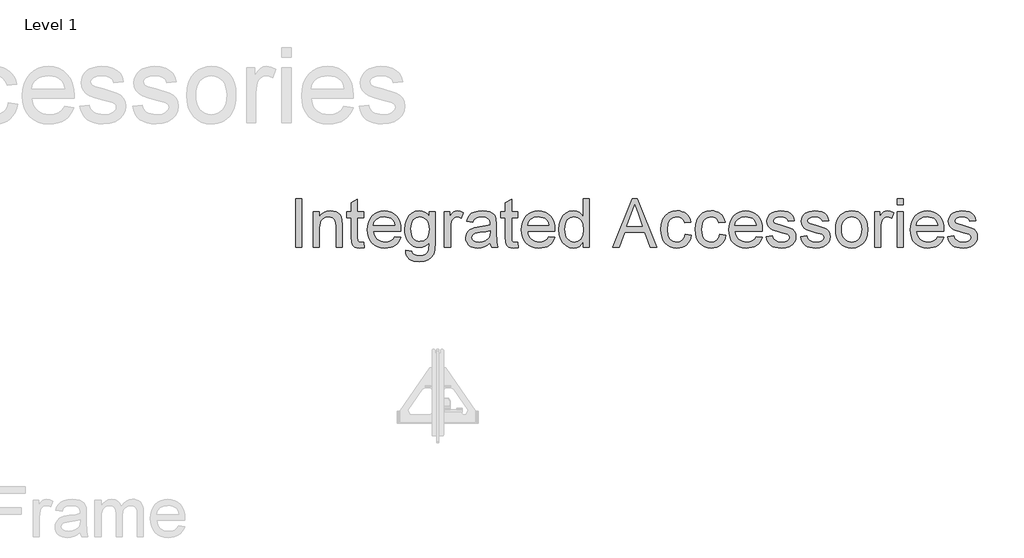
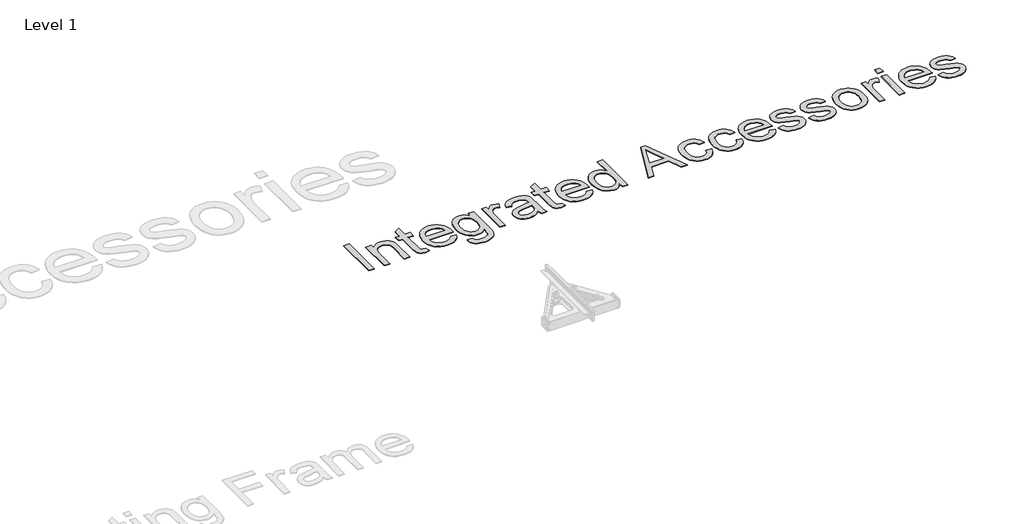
# One storey, part 37 of 52: 1 proxy.
"""IFC4 building model written with IfcOpenShell, lengths in millimetres."""

import ifcopenshell
import ifcopenshell.guid

model = None  # the IFC model being written
_history = None  # IfcOwnerHistory: only IFC2X3 demands one
_inside = {}  # id of a spatial element -> (the spatial element, [elements in it])
_under = {}  # id of a project, library or spatial element -> (it, [spatial elements below it])
_declared = {}  # id of a project -> (the project, [libraries it declares])
_typed = {}  # id of a type object -> (the type object, [elements of that type])
_made_of = {}  # id of a material, layer set ... -> (it, [elements and type objects made of it])


def new_model(schema):
    """Start an empty IFC model of exactly this schema.

    Asked for "IFC4X3", IfcOpenShell would pick the latest addendum, in which some entities
    have other attributes; the version numbers below select the first issue.
    IFC2X3 requires an IfcOwnerHistory on every rooted entity: one is made here for all.
    """
    global model, _history
    if schema == "IFC4X3":
        model = ifcopenshell.file(schema_version=(4, 3, 0, 0))
    else:
        model = ifcopenshell.file(schema=schema)
    _inside.clear()
    _under.clear()
    _declared.clear()
    _typed.clear()
    _made_of.clear()
    _history = None
    if model.schema == "IFC2X3":
        org = make("IfcOrganization", Name="unknown")
        user = make(
            "IfcPersonAndOrganization",
            ThePerson=make("IfcPerson", FamilyName="unknown"),
            TheOrganization=org,
        )
        app = make(
            "IfcApplication",
            ApplicationDeveloper=org,
            Version="unknown",
            ApplicationFullName="unknown",
            ApplicationIdentifier="unknown",
        )
        _history = make(
            "IfcOwnerHistory",
            OwningUser=user,
            OwningApplication=app,
            ChangeAction="ADDED",
            CreationDate=0,
        )
    return model


def make(cls, **values):
    """One entity of the class cls with the attributes given. An attribute that is None is left unset."""
    return model.create_entity(
        cls, **{name: value for name, value in values.items() if value is not None}
    )


def rooted(cls, **values):
    """An entity with a GlobalId (a new one), such as an element, a storey or a relation."""
    return make(cls, GlobalId=ifcopenshell.guid.new(), OwnerHistory=_history, **values)


def si_unit(unit_type, name, prefix=None):
    """IfcSIUnit, for example si_unit("LENGTHUNIT", "METRE", prefix="MILLI")."""
    return make("IfcSIUnit", UnitType=unit_type, Prefix=prefix, Name=name)


def assignment(units):
    """IfcUnitAssignment: the units of a project."""
    return None if units is None else make("IfcUnitAssignment", Units=units)


def point(xyz):
    """IfcCartesianPoint."""
    return None if xyz is None else make("IfcCartesianPoint", Coordinates=xyz)


def direction(xyz):
    """IfcDirection."""
    return None if xyz is None else make("IfcDirection", DirectionRatios=xyz)


def frame(location, z_axis=None, x_axis=None):
    """IfcAxis2Placement3D, a coordinate frame: its origin and axes. An axis left out is left unset."""
    return make(
        "IfcAxis2Placement3D",
        Location=point(location),
        Axis=direction(z_axis),
        RefDirection=direction(x_axis),
    )


def origin():
    """The frame at (0, 0, 0) with its axes left unset."""
    return frame((0.0, 0.0, 0.0))


def origin_with_axes():
    """The frame at (0, 0, 0) with the z axis (0, 0, 1) and the x axis (1, 0, 0) written out."""
    return frame((0.0, 0.0, 0.0), z_axis=(0.0, 0.0, 1.0), x_axis=(1.0, 0.0, 0.0))


def place(relative_to, where):
    """IfcLocalPlacement: puts the frame where relative to a parent placement (None: the world)."""
    return make(
        "IfcLocalPlacement", PlacementRelTo=relative_to, RelativePlacement=where
    )


def context(
    kind, dimensions, precision=None, world=None, true_north=None, identifier=None
):
    """IfcGeometricRepresentationContext, for example the 3D "Model" context."""
    return make(
        "IfcGeometricRepresentationContext",
        ContextIdentifier=identifier,
        ContextType=kind,
        CoordinateSpaceDimension=dimensions,
        Precision=precision,
        WorldCoordinateSystem=world,
        TrueNorth=true_north,
    )


def project(units=None, contexts=None):
    """IfcProject with its units and contexts."""
    return rooted(
        "IfcProject",
        Name="project",
        RepresentationContexts=contexts,
        UnitsInContext=assignment(units),
    )


def spatial(cls, under=None, at=None, **own):
    """A site, building, storey or space (cls), placed at a placement, below another one or the project."""
    s = rooted(cls, ObjectPlacement=at, **own)
    if under is not None:
        _under.setdefault(under.id(), (under, []))[1].append(s)
    return s


def polyline(points):
    """IfcPolyline through the points."""
    return make("IfcPolyline", Points=[point(p) for p in points])


def outline(outer, holes=None, kind="AREA"):
    """IfcArbitraryClosedProfileDef: a profile drawn as a closed curve; with holes, ...WithVoids."""
    if holes is None:
        return make("IfcArbitraryClosedProfileDef", ProfileType=kind, OuterCurve=outer)
    return make(
        "IfcArbitraryProfileDefWithVoids",
        ProfileType=kind,
        OuterCurve=outer,
        InnerCurves=holes,
    )


def extrude(swept, where, along, depth):
    """IfcExtrudedAreaSolid: the profile swept, set in the frame where, extruded along a direction by depth."""
    return make(
        "IfcExtrudedAreaSolid",
        SweptArea=swept,
        Position=where,
        ExtrudedDirection=direction(along),
        Depth=depth,
    )


def shape(context_of_items, identifier, shape_type, items):
    """IfcShapeRepresentation: the items that make up one representation, for example the "Body"."""
    return make(
        "IfcShapeRepresentation",
        ContextOfItems=context_of_items,
        RepresentationIdentifier=identifier,
        RepresentationType=shape_type,
        Items=items,
    )


def made_of(thing, what):
    """Note that an element or type object is made of a material, layer set ...; save() writes the relation."""
    if what is not None:
        _made_of.setdefault(what.id(), (what, []))[1].append(thing)
    return thing


def element(
    cls,
    number,
    at=None,
    inside=None,
    cuts=None,
    type_object=None,
    material=None,
    context=None,
    identifier="Body",
    shape_type=None,
    held_by="IfcProductDefinitionShape",
    body=None,
    shapes=None,
    **own,
):
    """One element of the class cls, such as IfcWall. Its Tag is "e" and its number.

    at: its placement. inside: the storey or other place that contains it. cuts: it is an
    opening in that element (IfcRelVoidsElement). A single representation is given by context,
    identifier, shape_type and body (its items); several are given by shapes. held_by: the class
    of the entity that holds the representations. save() writes the other relations.
    """
    e = rooted(cls, Tag="e%d" % number, ObjectPlacement=at, **own)
    if body is not None:
        shapes = [shape(context, identifier, shape_type, body)]
    if shapes is not None:
        e.Representation = make(held_by, Representations=shapes)
    if inside is not None:
        _inside.setdefault(inside.id(), (inside, []))[1].append(e)
    if cuts is not None:
        rooted(
            "IfcRelVoidsElement", RelatingBuildingElement=cuts, RelatedOpeningElement=e
        )
    if type_object is not None:
        _typed.setdefault(type_object.id(), (type_object, []))[1].append(e)
    return made_of(e, material)


def aggregate(whole, parts):
    """IfcRelAggregates: a whole, such as a stair, and the parts it consists of."""
    return rooted("IfcRelAggregates", RelatingObject=whole, RelatedObjects=parts)


def save(model, path):
    """Write the relations noted so far, then the file.

    IfcRelAggregates (storeys below a building ...), IfcRelContainedInSpatialStructure (elements
    in a storey), IfcRelDefinesByType, IfcRelAssociatesMaterial and IfcRelDeclares: one each for
    every whole, place, type object, material and project.
    """
    for whole, parts in _under.values():
        aggregate(whole, parts)
    for where, things in _inside.values():
        rooted(
            "IfcRelContainedInSpatialStructure",
            RelatedElements=things,
            RelatingStructure=where,
        )
    for kind, things in _typed.values():
        rooted("IfcRelDefinesByType", RelatedObjects=things, RelatingType=kind)
    for what, things in _made_of.values():
        rooted("IfcRelAssociatesMaterial", RelatedObjects=things, RelatingMaterial=what)
    for by, libraries in _declared.values():
        rooted("IfcRelDeclares", RelatingContext=by, RelatedDefinitions=libraries)
    model.write(path)


model = new_model("IFC4")

# Units and contexts
model_context = context("Model", 3, world=origin())
ifc_project = project(units=[si_unit("LENGTHUNIT", "METRE", prefix="MILLI")], contexts=[model_context])

# Site, building, storey
site = spatial("IfcSite", under=ifc_project)
building = spatial("IfcBuilding", under=site)
storey = spatial("IfcBuildingStorey", under=building, Name="Level 1", Elevation=0.0)

# Proxy
placement = place(None, origin())
element("IfcBuildingElementProxy", 1, Name="400mm Arial", ObjectType="400mm Arial", at=placement, inside=storey, context=model_context, shape_type="SweptSolid", body=[
    extrude(outline(polyline([(15562.2235155, -61267.5695164), (15562.2235155, -60875.8119407), (15611.1932125, -60875.8119407), (15611.1932125, -61267.5695164), (15562.2235155, -61267.5695164)])), origin_with_axes(), (0.0, 0.0, 1.0), 5.0),
    extrude(outline(polyline([(15703.0113943, -61267.5695164), (15703.0113943, -60979.8725467), (15751.9810912, -60979.8725467), (15751.9810912, -61020.0430013), (15768.993757, -60999.7903971), (15789.4256935, -60985.3242513), (15813.2769009, -60976.6445638), (15840.5473791, -60973.7513346), (15864.6855183, -60976.0826556), (15886.7912238, -60983.0766187), (15905.2265931, -60993.8604729), (15918.3537238, -61007.5614672), (15927.2605657, -61024.1437352), (15933.0350685, -61043.5714104), (15935.6174549, -61090.9151604), (15935.6174549, -61267.5695164), (15886.6477579, -61267.5695164), (15886.6477579, -61097.5145922), (15885.2370098, -61072.1928592), (15881.0047655, -61054.1878876), (15873.1978289, -61041.2879113), (15861.0630041, -61031.2811642), (15845.5089085, -61024.8610647), (15827.4441594, -61022.7210316), (15798.7629331, -61027.5271395), (15774.3139511, -61041.9454634), (15764.5433249, -61053.7156457), (15757.5643062, -61069.8017607), (15753.376895, -61090.2038086), (15751.9810912, -61114.9217892), (15751.9810912, -61267.5695164), (15703.0113943, -61267.5695164)])), origin_with_axes(), (0.0, 0.0, 1.0), 5.0),
    extrude(outline(polyline([(16107.0113943, -61226.7295543), (16113.1326064, -61269.0041755), (16076.5009776, -61273.6907285), (16052.9964795, -61271.6582948), (16035.4697276, -61265.5609937), (16023.0838375, -61256.1639767), (16015.0019246, -61244.2323952), (16010.5544814, -61223.7406812), (16009.0720003, -61188.6632664), (16009.0720003, -61028.8422437), (15972.3447276, -61028.8422437), (15972.3447276, -60979.8725467), (16009.0720003, -60979.8725467), (16009.0720003, -60909.956827), (16058.0416973, -60881.1680013), (16058.0416973, -60979.8725467), (16107.0113943, -60979.8725467), (16107.0113943, -61028.8422437), (16058.0416973, -61028.8422437), (16058.0416973, -61187.2286073), (16060.6240837, -61212.4786073), (16068.9929284, -61221.4213157), (16085.6827958, -61224.7210316), (16107.0113943, -61226.7295543)])), origin_with_axes(), (0.0, 0.0, 1.0), 5.0),
    extrude(outline(polyline([(16357.4072276, -61181.8725467), (16405.4204852, -61187.9937589), (16398.0588907, -61207.2241684), (16388.1208876, -61224.1710789), (16375.6064759, -61238.8344904), (16360.5156556, -61251.2144028), (16343.0038481, -61261.0477953), (16323.2264748, -61268.0716471), (16276.8750306, -61273.6907285), (16246.4901466, -61271.2667525), (16219.416934, -61263.9948242), (16195.6553928, -61251.8749437), (16175.2055231, -61234.9071111), (16158.7607432, -61213.5635683), (16147.0144719, -61188.3165571), (16139.9667091, -61159.1660777), (16137.6174549, -61126.1121301), (16139.9906201, -61091.937355), (16147.1101159, -61061.8154918), (16158.9759421, -61035.7465406), (16175.5880988, -61013.7305013), (16195.9841689, -60996.2396159), (16219.2017352, -60983.7461263), (16245.2407977, -60976.2500325), (16274.1013564, -60973.7513346), (16302.0323756, -60976.2440548), (16327.2913422, -60983.7222153), (16349.8782562, -60996.1858161), (16369.7931178, -61013.6348573), (16386.0495986, -61035.6030747), (16397.6613706, -61061.6242039), (16404.6284338, -61091.6982451), (16406.9507882, -61125.8251982), (16406.6638564, -61139.0240619), (16186.5871518, -61139.0240619), (16189.4235924, -61158.5653142), (16195.063596, -61175.6796017), (16203.5071625, -61190.3669241), (16214.754292, -61202.6272816), (16243.1724975, -61219.1975941), (16277.83147, -61224.7210316), (16303.8944435, -61222.1625562), (16325.8447276, -61214.4871301), (16343.6823223, -61201.2165335), (16357.4072276, -61181.8725467)]), holes=[polyline([(16186.5871518, -61090.0543649), (16357.9810912, -61090.0543649), (16351.3577484, -61064.1826793), (16338.3740837, -61045.675577), (16325.0197986, -61035.6329634), (16309.8243678, -61028.4596679), (16273.9100685, -61022.7210316), (16240.9009539, -61027.2999852), (16213.6065647, -61041.036846), (16194.6331982, -61062.4491329), (16186.5871518, -61090.0543649)])]), origin_with_axes(), (0.0, 0.0, 1.0), 5.0),
    extrude(outline(polyline([(16443.6780609, -61292.0543649), (16492.6477579, -61298.175577), (16498.0516405, -61313.4786073), (16508.5246518, -61323.9994407), (16529.1120098, -61332.1769975), (16556.0596897, -61334.9028498), (16584.8006935, -61331.8183327), (16606.177114, -61322.5647816), (16621.0019246, -61307.739971), (16630.0880988, -61287.9416755), (16633.4356367, -61230.8422437), (16617.1403005, -61246.9104255), (16598.9559965, -61258.3876982), (16578.8827248, -61265.2740619), (16556.9204852, -61267.5695164), (16530.0714381, -61264.8974639), (16506.4324407, -61256.8813062), (16486.003493, -61243.5210434), (16468.784595, -61224.8166755), (16455.1224561, -61202.3762162), (16445.3637854, -61177.8076793), (16439.508583, -61151.1110647), (16437.5568488, -61122.2863725), (16441.0598081, -61082.749559), (16451.5686859, -61046.3929066), (16468.7128621, -61015.5836026), (16492.1217162, -60992.6888346), (16520.9942304, -60978.4857096), (16554.5293867, -60973.7513346), (16577.4301324, -60976.4293649), (16598.214756, -60984.4634558), (16616.8832574, -60997.8536073), (16633.4356367, -61016.5998195), (16633.4356367, -60979.8725467), (16682.4053337, -60979.8725467), (16682.4053337, -61228.2598573), (16679.0577958, -61285.6103545), (16669.0151821, -61323.3777551), (16651.7155846, -61348.4245117), (16626.597095, -61367.613077), (16594.2096661, -61379.8076793), (16555.1032503, -61383.8725467), (16509.5408687, -61378.1458659), (16490.3911587, -61370.9875148), (16473.6624359, -61360.9658232), (16460.1497406, -61348.0688358), (16450.648113, -61332.2845969), (16445.1575531, -61313.6131066), (16443.6780609, -61292.0543649)]), holes=[polyline([(16486.5265458, -61118.9388346), (16491.751096, -61163.8556196), (16498.2817837, -61181.0506066), (16507.4247465, -61194.7366566), (16518.5403656, -61205.1767903), (16530.9890221, -61212.6340287), (16544.770716, -61217.1083718), (16559.8854473, -61218.5998195), (16588.5666736, -61212.6698952), (16612.2505041, -61194.8801225), (16621.5189996, -61181.3285718), (16628.1393536, -61164.3936168), (16633.4356367, -61120.3734937), (16627.9839321, -61077.9195401), (16621.1693015, -61061.1489731), (16611.6288185, -61047.349346), (16587.5982787, -61028.8781102), (16573.9152177, -61024.2603012), (16559.1202958, -61022.7210316), (16544.5734504, -61024.2363902), (16531.156399, -61028.7824662), (16507.7116784, -61046.9667702), (16498.4431829, -61060.5571762), (16491.8228289, -61077.0826556), (16486.5265458, -61118.9388346)])]), origin_with_axes(), (0.0, 0.0, 1.0), 5.0),
    extrude(outline(polyline([(16755.8598791, -61267.5695164), (16755.8598791, -60979.8725467), (16798.708364, -60979.8725467), (16798.708364, -61022.4340998), (16814.5374359, -60997.7579634), (16829.1231367, -60983.2200846), (16843.7566594, -60976.1185221), (16859.7291973, -60973.7513346), (16884.1184018, -60977.5292702), (16908.8901821, -60988.863077), (16892.5350685, -61032.7636452), (16875.3191594, -61025.231685), (16858.1032503, -61022.7210316), (16843.4816831, -61025.136041), (16830.4143299, -61032.3810695), (16819.8576301, -61043.9061642), (16812.7680231, -61059.1613725), (16806.8141878, -61086.5155392), (16804.8295761, -61116.3564482), (16804.8295761, -61267.5695164), (16755.8598791, -61267.5695164)])), origin_with_axes(), (0.0, 0.0, 1.0), 5.0),
    extrude(outline(polyline([(17123.1326064, -61230.8422437), (17099.7357077, -61250.90356), (17075.6453905, -61264.0306907), (17050.311702, -61271.2757191), (17023.1846897, -61273.6907285), (17001.3808604, -61272.2381362), (16982.2610392, -61267.8803592), (16965.8252259, -61260.6173976), (16952.0734208, -61250.4492513), (16941.2148448, -61238.0215169), (16933.4587191, -61223.979791), (16928.8050437, -61208.3240737), (16927.2538185, -61191.0543649), (16929.597095, -61170.7539388), (16936.6269246, -61152.3185695), (16947.4705562, -61136.5373195), (16961.255239, -61124.1992513), (16995.5435912, -61108.1310695), (17037.9138564, -61100.7664861), (17087.9834587, -61093.019327), (17122.8456746, -61083.9331528), (17123.1326064, -61073.0297437), (17119.7611575, -61051.1751035), (17109.6468109, -61036.8763346), (17087.0270193, -61026.2598573), (17055.5123412, -61022.7210316), (17026.3409397, -61025.0762636), (17005.9687806, -61032.1419596), (16992.0764984, -61045.2093128), (16982.3447276, -61065.5695164), (16933.3750306, -61059.4483043), (16941.8753857, -61032.6680013), (16954.5601632, -61011.6263346), (16972.6129568, -60995.5342418), (16997.2173602, -60983.6026604), (17027.3093346, -60976.214166), (17061.8248412, -60973.7513346), (17094.9295998, -60975.9272342), (17121.1719056, -60982.4549331), (17140.9582456, -60992.2703924), (17154.6951064, -61004.3095732), (17163.8051916, -61019.1941613), (17169.7112049, -61037.5458422), (17172.1023034, -61080.394327), (17172.1023034, -61141.3195164), (17174.5890458, -61226.3948005), (17184.3447276, -61267.5695164), (17135.3750306, -61267.5695164), (17127.5322276, -61250.5448952), (17123.1326064, -61230.8422437)]), holes=[polyline([(17123.1326064, -61132.9028498), (17090.2310912, -61141.0564956), (17044.1307125, -61147.9189482), (17001.9995571, -61155.8573952), (16991.0363706, -61161.2851888), (16982.9185912, -61168.769327), (16977.8972844, -61177.7359464), (16976.2235155, -61187.6111831), (16979.8699407, -61202.1729729), (16990.8092162, -61214.1045543), (17008.8022323, -61222.0669123), (17033.6098791, -61224.7210316), (17059.9119625, -61221.7919359), (17083.1534397, -61213.004649), (17101.9952958, -61200.0568507), (17115.0985155, -61184.646221), (17120.9088848, -61168.769327), (17122.8456746, -61146.771221), (17123.1326064, -61132.9028498)])]), origin_with_axes(), (0.0, 0.0, 1.0), 5.0),
    extrude(outline(polyline([(17343.4962428, -61226.7295543), (17349.6174549, -61269.0041755), (17312.9858261, -61273.6907285), (17289.481328, -61271.6582948), (17271.9545761, -61265.5609937), (17259.5686859, -61256.1639767), (17251.4867731, -61244.2323952), (17247.0393299, -61223.7406812), (17245.5568488, -61188.6632664), (17245.5568488, -61028.8422437), (17208.8295761, -61028.8422437), (17208.8295761, -60979.8725467), (17245.5568488, -60979.8725467), (17245.5568488, -60909.956827), (17294.5265458, -60881.1680013), (17294.5265458, -60979.8725467), (17343.4962428, -60979.8725467), (17343.4962428, -61028.8422437), (17294.5265458, -61028.8422437), (17294.5265458, -61187.2286073), (17297.1089321, -61212.4786073), (17305.4777768, -61221.4213157), (17322.1676443, -61224.7210316), (17343.4962428, -61226.7295543)])), origin_with_axes(), (0.0, 0.0, 1.0), 5.0),
    extrude(outline(polyline([(17593.8920761, -61181.8725467), (17641.9053337, -61187.9937589), (17634.5437392, -61207.2241684), (17624.6057361, -61224.1710789), (17612.0913244, -61238.8344904), (17597.0005041, -61251.2144028), (17579.4886966, -61261.0477953), (17559.7113232, -61268.0716471), (17513.3598791, -61273.6907285), (17482.9749951, -61271.2667525), (17455.9017825, -61263.9948242), (17432.1402413, -61251.8749437), (17411.6903715, -61234.9071111), (17395.2455917, -61213.5635683), (17383.4993204, -61188.3165571), (17376.4515576, -61159.1660777), (17374.1023034, -61126.1121301), (17376.4754686, -61091.937355), (17383.5949643, -61061.8154918), (17395.4607906, -61035.7465406), (17412.0729473, -61013.7305013), (17432.4690174, -60996.2396159), (17455.6865837, -60983.7461263), (17481.7256462, -60976.2500325), (17510.5862049, -60973.7513346), (17538.5172241, -60976.2440548), (17563.7761907, -60983.7222153), (17586.3631047, -60996.1858161), (17606.2779662, -61013.6348573), (17622.5344471, -61035.6030747), (17634.1462191, -61061.6242039), (17641.1132823, -61091.6982451), (17643.4356367, -61125.8251982), (17643.1487049, -61139.0240619), (17423.0720003, -61139.0240619), (17425.9084409, -61158.5653142), (17431.5484445, -61175.6796017), (17439.992011, -61190.3669241), (17451.2391405, -61202.6272816), (17479.657346, -61219.1975941), (17514.3163185, -61224.7210316), (17540.379292, -61222.1625562), (17562.3295761, -61214.4871301), (17580.1671708, -61201.2165335), (17593.8920761, -61181.8725467)]), holes=[polyline([(17423.0720003, -61090.0543649), (17594.4659397, -61090.0543649), (17587.8425969, -61064.1826793), (17574.8589321, -61045.675577), (17561.5046471, -61035.6329634), (17546.3092162, -61028.4596679), (17510.394917, -61022.7210316), (17477.3858024, -61027.2999852), (17450.0914132, -61041.036846), (17431.1180467, -61062.4491329), (17423.0720003, -61090.0543649)])]), origin_with_axes(), (0.0, 0.0, 1.0), 5.0),
    extrude(outline(polyline([(17869.9204852, -61267.5695164), (17869.9204852, -61221.3734937), (17855.2690292, -61244.2622839), (17837.5211007, -61260.6114198), (17816.6766997, -61270.4209014), (17792.7358261, -61273.6907285), (17761.0776821, -61268.9563535), (17732.0975685, -61254.7532285), (17707.5648981, -61232.0736594), (17689.2490837, -61201.909952), (17677.8435439, -61165.4815666), (17674.0416973, -61124.0079634), (17677.5446566, -61083.0484464), (17688.0535344, -61046.0581528), (17705.5563753, -61015.1412494), (17730.0412238, -60992.4019028), (17759.6549786, -60978.4139767), (17792.5445382, -60973.7513346), (17816.503345, -60977.086917), (17837.6884776, -60987.0936642), (17855.6456272, -61002.4325609), (17869.9204852, -61021.7645922), (17869.9204852, -60875.8119407), (17918.8901821, -60875.8119407), (17918.8901821, -61267.5695164), (17869.9204852, -61267.5695164)]), holes=[polyline([(17723.0113943, -61123.8166755), (17728.5348318, -61168.111775), (17735.4391286, -61185.4621833), (17745.1051443, -61199.6144975), (17769.183506, -61218.4443981), (17782.7111457, -61223.1518732), (17797.2310912, -61224.7210316), (17825.266721, -61218.7313299), (17848.7353526, -61200.7622248), (17858.0038481, -61187.2017075), (17864.624202, -61170.4789625), (17869.9204852, -61127.5467892), (17864.5285581, -61080.6095259), (17857.7886492, -61062.5387991), (17848.3527768, -61048.0666755), (17836.9442482, -61036.9779563), (17824.2863706, -61029.0574426), (17810.379144, -61024.3051343), (17795.2225685, -61022.7210316), (17780.4156911, -61024.242368), (17766.8880515, -61028.8063772), (17754.6396495, -61036.4130593), (17743.6704852, -61047.0624142), (17734.6321329, -61060.987574), (17728.176167, -61078.4216708), (17723.0113943, -61123.8166755)])]), origin_with_axes(), (0.0, 0.0, 1.0), 5.0),
    extrude(outline(polyline([(18105.8740837, -61267.5695164), (18262.2519246, -60875.8119407), (18303.9526821, -60875.8119407), (18460.3305231, -61267.5695164), (18408.5871518, -61267.5695164), (18363.7301443, -61145.145274), (18202.3788185, -61145.145274), (18157.6174549, -61267.5695164), (18105.8740837, -61267.5695164)]), holes=[polyline([(18220.3598791, -61096.175577), (18345.8447276, -61096.175577), (18310.552114, -60999.8621301), (18283.1023034, -60924.7816376), (18258.7130988, -60991.4454634), (18220.3598791, -61096.175577)])]), origin_with_axes(), (0.0, 0.0, 1.0), 5.0),
    extrude(outline(polyline([(18690.1629094, -61163.5089104), (18739.1326064, -61169.6301225), (18733.8064345, -61192.7371005), (18725.479434, -61213.1839814), (18714.151605, -61230.9707652), (18699.8229473, -61246.097452), (18683.0972134, -61258.1695105), (18664.5781556, -61266.7924094), (18644.265774, -61271.9661488), (18622.1600685, -61273.6907285), (18594.6953135, -61271.2846857), (18570.069988, -61264.0665571), (18548.284092, -61252.0363429), (18529.3376253, -61235.1940429), (18514.0017174, -61213.8564778), (18503.0474975, -61188.3404681), (18496.4749655, -61158.6460138), (18494.2841215, -61124.7731149), (18498.0261907, -61081.195345), (18509.2523981, -61043.4279445), (18528.1420761, -61012.9294833), (18554.8745571, -60991.1585316), (18586.8554994, -60978.1031339), (18621.4905609, -60973.7513346), (18643.2166795, -60975.2457712), (18662.8685202, -60979.7290808), (18680.446083, -60987.2012636), (18695.9493678, -60997.6623195), (18709.1153538, -61010.8731386), (18719.6810202, -61026.5946111), (18727.646367, -61044.8267371), (18733.0113943, -61065.5695164), (18684.0416973, -61071.6907285), (18675.1587664, -61050.3262636), (18661.3262617, -61035.0112778), (18643.3093346, -61025.7935931), (18621.8731367, -61022.7210316), (18605.2340801, -61024.2334014), (18590.2269482, -61028.7705107), (18576.8517411, -61036.3323597), (18565.1084587, -61046.9189482), (18555.5470536, -61060.775364), (18548.7174786, -61078.1466945), (18543.2538185, -61123.4340998), (18548.5979236, -61169.3312352), (18555.278055, -61186.8191317), (18564.630239, -61200.6665808), (18576.1403893, -61211.190403), (18589.2944198, -61218.7074189), (18604.0923306, -61223.2176284), (18620.5341215, -61224.7210316), (18645.891721, -61220.967007), (18666.6823223, -61209.7049331), (18681.8060202, -61190.6478782), (18690.1629094, -61163.5089104)])), origin_with_axes(), (0.0, 0.0, 1.0), 5.0),
    extrude(outline(polyline([(18965.6174549, -61163.5089104), (19014.5871518, -61169.6301225), (19009.26098, -61192.7371005), (19000.9339795, -61213.1839814), (18989.6061504, -61230.9707652), (18975.2774928, -61246.097452), (18958.5517589, -61258.1695105), (18940.0327011, -61266.7924094), (18919.7203195, -61271.9661488), (18897.614614, -61273.6907285), (18870.149859, -61271.2846857), (18845.5245335, -61264.0665571), (18823.7386374, -61252.0363429), (18804.7921708, -61235.1940429), (18789.4562629, -61213.8564778), (18778.5020429, -61188.3404681), (18771.929511, -61158.6460138), (18769.738667, -61124.7731149), (18773.4807361, -61081.195345), (18784.7069435, -61043.4279445), (18803.5966215, -61012.9294833), (18830.3291026, -60991.1585316), (18862.3100448, -60978.1031339), (18896.9451064, -60973.7513346), (18918.671225, -60975.2457712), (18938.3230657, -60979.7290808), (18955.9006284, -60987.2012636), (18971.4039132, -60997.6623195), (18984.5698992, -61010.8731386), (18995.1355657, -61026.5946111), (19003.1009125, -61044.8267371), (19008.4659397, -61065.5695164), (18959.4962428, -61071.6907285), (18950.6133119, -61050.3262636), (18936.7808071, -61035.0112778), (18918.7638801, -61025.7935931), (18897.3276821, -61022.7210316), (18880.6886256, -61024.2334014), (18865.6814937, -61028.7705107), (18852.3062866, -61036.3323597), (18840.5630041, -61046.9189482), (18831.0015991, -61060.775364), (18824.172024, -61078.1466945), (18818.708364, -61123.4340998), (18824.0524691, -61169.3312352), (18830.7326005, -61186.8191317), (18840.0847844, -61200.6665808), (18851.5949348, -61211.190403), (18864.7489653, -61218.7074189), (18879.546876, -61223.2176284), (18895.988667, -61224.7210316), (18921.3462664, -61220.967007), (18942.1368678, -61209.7049331), (18957.2605657, -61190.6478782), (18965.6174549, -61163.5089104)])), origin_with_axes(), (0.0, 0.0, 1.0), 5.0),
    extrude(outline(polyline([(19258.8617731, -61181.8725467), (19306.8750306, -61187.9937589), (19299.5134362, -61207.2241684), (19289.5754331, -61224.1710789), (19277.0610214, -61238.8344904), (19261.9702011, -61251.2144028), (19244.4583936, -61261.0477953), (19224.6810202, -61268.0716471), (19178.3295761, -61273.6907285), (19147.9446921, -61271.2667525), (19120.8714795, -61263.9948242), (19097.1099383, -61251.8749437), (19076.6600685, -61234.9071111), (19060.2152887, -61213.5635683), (19048.4690174, -61188.3165571), (19041.4212546, -61159.1660777), (19039.0720003, -61126.1121301), (19041.4451656, -61091.937355), (19048.5646613, -61061.8154918), (19060.4304875, -61035.7465406), (19077.0426443, -61013.7305013), (19097.4387143, -60996.2396159), (19120.6562806, -60983.7461263), (19146.6953431, -60976.2500325), (19175.5559018, -60973.7513346), (19203.486921, -60976.2440548), (19228.7458876, -60983.7222153), (19251.3328017, -60996.1858161), (19271.2476632, -61013.6348573), (19287.504144, -61035.6030747), (19299.1159161, -61061.6242039), (19306.0829793, -61091.6982451), (19308.4053337, -61125.8251982), (19308.1184018, -61139.0240619), (19088.0416973, -61139.0240619), (19090.8781379, -61158.5653142), (19096.5181414, -61175.6796017), (19104.961708, -61190.3669241), (19116.2088375, -61202.6272816), (19144.6270429, -61219.1975941), (19179.2860155, -61224.7210316), (19205.348989, -61222.1625562), (19227.2992731, -61214.4871301), (19245.1368678, -61201.2165335), (19258.8617731, -61181.8725467)]), holes=[polyline([(19088.0416973, -61090.0543649), (19259.4356367, -61090.0543649), (19252.8122939, -61064.1826793), (19239.8286291, -61045.675577), (19226.4743441, -61035.6329634), (19211.2789132, -61028.4596679), (19175.364614, -61022.7210316), (19142.3554994, -61027.2999852), (19115.0611102, -61041.036846), (19096.0877437, -61062.4491329), (19088.0416973, -61090.0543649)])]), origin_with_axes(), (0.0, 0.0, 1.0), 5.0),
    extrude(outline(polyline([(19339.0113943, -61181.8725467), (19387.9810912, -61175.7513346), (19395.7043393, -61196.6973573), (19410.6487049, -61212.0960316), (19432.9098318, -61221.5647816), (19462.583364, -61224.7210316), (19491.8982314, -61221.8278024), (19512.5095003, -61213.1481149), (19524.7041026, -61200.5709369), (19528.76897, -61185.9852361), (19524.6801916, -61173.503702), (19512.4138564, -61163.9871301), (19462.0095003, -61150.0231149), (19388.2680231, -61126.0643081), (19369.6054994, -61114.0251272), (19356.0838375, -61098.0884558), (19347.8704142, -61079.2705107), (19345.1326064, -61058.5875089), (19347.332417, -61039.6141424), (19353.9318488, -61022.099346), (19364.3331272, -61006.7365382), (19377.9384776, -60994.2191376), (19409.0705799, -60979.7290808), (19451.2017352, -60973.7513346), (19483.075078, -60976.1543886), (19510.7879094, -60983.3635505), (19533.0729473, -60994.6734464), (19548.6629094, -61009.378702), (19558.9924549, -61028.5672674), (19565.4962428, -61053.3270922), (19516.5265458, -61059.4483043), (19510.3455562, -61044.0376746), (19498.1150875, -61032.4288914), (19479.7155846, -61025.1479965), (19455.0274928, -61022.7210316), (19426.9081746, -61025.0403971), (19408.1619625, -61031.9984937), (19397.6172181, -61042.0411073), (19394.1023034, -61053.614024), (19399.9365837, -61067.864971), (19418.2045761, -61078.6727361), (19460.3835534, -61089.0979255), (19532.2599738, -61112.1481149), (19551.2452958, -61123.1710789), (19565.6397087, -61138.2589104), (19574.7139274, -61157.4594312), (19577.738667, -61180.8204634), (19574.1878857, -61204.9705581), (19563.535542, -61227.6859937), (19546.1881225, -61247.1854018), (19522.552114, -61261.6874142), (19494.0023981, -61270.6899), (19461.9138564, -61273.6907285), (19435.5579733, -61272.244114), (19412.5376727, -61267.9042702), (19392.8529544, -61260.6711973), (19376.5038185, -61250.5448952), (19363.1495335, -61237.5731859), (19352.4493678, -61221.8038914), (19344.4033214, -61203.2370117), (19339.0113943, -61181.8725467)])), origin_with_axes(), (0.0, 0.0, 1.0), 5.0),
    extrude(outline(polyline([(19614.4659397, -61181.8725467), (19663.4356367, -61175.7513346), (19671.1588848, -61196.6973573), (19686.1032503, -61212.0960316), (19708.3643772, -61221.5647816), (19738.0379094, -61224.7210316), (19767.3527768, -61221.8278024), (19787.9640458, -61213.1481149), (19800.1586481, -61200.5709369), (19804.2235155, -61185.9852361), (19800.1347371, -61173.503702), (19787.8684018, -61163.9871301), (19737.4640458, -61150.0231149), (19663.7225685, -61126.0643081), (19645.0600448, -61114.0251272), (19631.5383829, -61098.0884558), (19623.3249596, -61079.2705107), (19620.5871518, -61058.5875089), (19622.7869625, -61039.6141424), (19629.3863943, -61022.099346), (19639.7876727, -61006.7365382), (19653.3930231, -60994.2191376), (19684.5251253, -60979.7290808), (19726.6562806, -60973.7513346), (19758.5296234, -60976.1543886), (19786.2424549, -60983.3635505), (19808.5274928, -60994.6734464), (19824.1174549, -61009.378702), (19834.4470003, -61028.5672674), (19840.9507882, -61053.3270922), (19791.9810912, -61059.4483043), (19785.8001017, -61044.0376746), (19773.5696329, -61032.4288914), (19755.1701301, -61025.1479965), (19730.4820382, -61022.7210316), (19702.36272, -61025.0403971), (19683.6165079, -61031.9984937), (19673.0717636, -61042.0411073), (19669.5568488, -61053.614024), (19675.3911291, -61067.864971), (19693.6591215, -61078.6727361), (19735.8380988, -61089.0979255), (19807.7145193, -61112.1481149), (19826.6998412, -61123.1710789), (19841.0942541, -61138.2589104), (19850.1684729, -61157.4594312), (19853.1932125, -61180.8204634), (19849.6424312, -61204.9705581), (19838.9900875, -61227.6859937), (19821.6426679, -61247.1854018), (19798.0066594, -61261.6874142), (19769.4569435, -61270.6899), (19737.3684018, -61273.6907285), (19711.0125188, -61272.244114), (19687.9922181, -61267.9042702), (19668.3074999, -61260.6711973), (19651.958364, -61250.5448952), (19638.6040789, -61237.5731859), (19627.9039132, -61221.8038914), (19619.8578668, -61203.2370117), (19614.4659397, -61181.8725467)])), origin_with_axes(), (0.0, 0.0, 1.0), 5.0),
    extrude(outline(polyline([(19896.0416973, -61123.7210316), (19898.6898389, -61086.4617394), (19906.6342636, -61054.3552645), (19919.8749714, -61027.4016069), (19938.4119625, -61005.6007664), (19957.0744861, -60991.66664), (19977.6737996, -60981.7136926), (20000.2099028, -60975.7419241), (20024.6827958, -60973.7513346), (20051.6992198, -60976.1753107), (20076.1272797, -60983.447239), (20097.9669755, -60995.5671194), (20117.2183071, -61012.534952), (20132.9308131, -61033.7768732), (20144.1540316, -61058.7190193), (20150.8879627, -61087.3613902), (20153.1326064, -61119.7039861), (20149.1633829, -61169.1758138), (20137.2557125, -61206.8356149), (20117.7563043, -61235.0386215), (20091.0118678, -61256.1400657), (20059.2461244, -61269.3030628), (20024.6827958, -61273.6907285), (19997.2718405, -61271.2757191), (19972.6166263, -61264.0306907), (19950.717153, -61251.9556433), (19931.5734208, -61235.050577), (19916.0282918, -61213.6024236), (19904.9246282, -61187.8981149), (19898.26243, -61157.9376509), (19896.0416973, -61123.7210316)]), holes=[polyline([(19945.0113943, -61123.6253876), (19946.4281201, -61147.3779622), (19950.6782977, -61167.9443981), (19957.7619269, -61185.3246952), (19967.6790079, -61199.5188535), (19979.7420998, -61210.5448064), (19993.2637617, -61218.4204871), (20008.2439937, -61223.1458955), (20024.6827958, -61224.7210316), (20041.0379094, -61223.1369288), (20055.958364, -61218.3846206), (20069.4441594, -61210.4641069), (20081.4952958, -61199.3753876), (20091.4123768, -61185.0407522), (20098.496006, -61167.3824899), (20102.7461836, -61146.4006007), (20104.1629094, -61122.0950846), (20102.737217, -61099.0957061), (20098.4601395, -61079.0672674), (20091.3316772, -61062.0097686), (20081.3518299, -61047.9232096), (20069.2558604, -61036.8972567), (20055.7790316, -61029.0215761), (20040.9213434, -61024.2961677), (20024.6827958, -61022.7210316), (20008.2439937, -61024.29019), (19993.2637617, -61028.9976651), (19979.7420998, -61036.843457), (19967.6790079, -61047.8275657), (19957.7619269, -61061.9798798), (19950.6782977, -61079.3302882), (19946.4281201, -61099.8787908), (19945.0113943, -61123.6253876)])]), origin_with_axes(), (0.0, 0.0, 1.0), 5.0),
    extrude(outline(polyline([(20208.2235155, -61267.5695164), (20208.2235155, -60979.8725467), (20251.0720003, -60979.8725467), (20251.0720003, -61022.4340998), (20266.9010723, -60997.7579634), (20281.4867731, -60983.2200846), (20296.1202958, -60976.1185221), (20312.0928337, -60973.7513346), (20336.4820382, -60977.5292702), (20361.2538185, -60988.863077), (20344.8987049, -61032.7636452), (20327.6827958, -61025.231685), (20310.4668867, -61022.7210316), (20295.8453195, -61025.136041), (20282.7779662, -61032.3810695), (20272.2212664, -61043.9061642), (20265.1316594, -61059.1613725), (20259.1778242, -61086.5155392), (20257.1932125, -61116.3564482), (20257.1932125, -61267.5695164), (20208.2235155, -61267.5695164)])), origin_with_axes(), (0.0, 0.0, 1.0), 5.0),
    extrude(outline(polyline([(20391.8598791, -60924.7816376), (20391.8598791, -60875.8119407), (20440.8295761, -60875.8119407), (20440.8295761, -60924.7816376), (20391.8598791, -60924.7816376)])), origin_with_axes(), (0.0, 0.0, 1.0), 5.0),
    extrude(outline(polyline([(20391.8598791, -61267.5695164), (20391.8598791, -60979.8725467), (20440.8295761, -60979.8725467), (20440.8295761, -61267.5695164), (20391.8598791, -61267.5695164)])), origin_with_axes(), (0.0, 0.0, 1.0), 5.0),
    extrude(outline(polyline([(20715.7102579, -61181.8725467), (20763.7235155, -61187.9937589), (20756.361921, -61207.2241684), (20746.4239179, -61224.1710789), (20733.9095062, -61238.8344904), (20718.8186859, -61251.2144028), (20701.3068784, -61261.0477953), (20681.5295051, -61268.0716471), (20635.1780609, -61273.6907285), (20604.7931769, -61271.2667525), (20577.7199643, -61263.9948242), (20553.9584232, -61251.8749437), (20533.5085534, -61234.9071111), (20517.0637735, -61213.5635683), (20505.3175022, -61188.3165571), (20498.2697394, -61159.1660777), (20495.9204852, -61126.1121301), (20498.2936504, -61091.937355), (20505.4131462, -61061.8154918), (20517.2789724, -61035.7465406), (20533.8911291, -61013.7305013), (20554.2871992, -60996.2396159), (20577.5047655, -60983.7461263), (20603.543828, -60976.2500325), (20632.4043867, -60973.7513346), (20660.3354059, -60976.2440548), (20685.5943725, -60983.7222153), (20708.1812866, -60996.1858161), (20728.0961481, -61013.6348573), (20744.3526289, -61035.6030747), (20755.9644009, -61061.6242039), (20762.9314641, -61091.6982451), (20765.2538185, -61125.8251982), (20764.9668867, -61139.0240619), (20544.8901821, -61139.0240619), (20547.7266227, -61158.5653142), (20553.3666263, -61175.6796017), (20561.8101928, -61190.3669241), (20573.0573223, -61202.6272816), (20601.4755278, -61219.1975941), (20636.1345003, -61224.7210316), (20662.1974738, -61222.1625562), (20684.1477579, -61214.4871301), (20701.9853526, -61201.2165335), (20715.7102579, -61181.8725467)]), holes=[polyline([(20544.8901821, -61090.0543649), (20716.2841215, -61090.0543649), (20709.6607787, -61064.1826793), (20696.677114, -61045.675577), (20683.3228289, -61035.6329634), (20668.1273981, -61028.4596679), (20632.2130988, -61022.7210316), (20599.2039842, -61027.2999852), (20571.909595, -61041.036846), (20552.9362286, -61062.4491329), (20544.8901821, -61090.0543649)])]), origin_with_axes(), (0.0, 0.0, 1.0), 5.0),
    extrude(outline(polyline([(20795.8598791, -61181.8725467), (20844.8295761, -61175.7513346), (20852.5528242, -61196.6973573), (20867.4971897, -61212.0960316), (20889.7583166, -61221.5647816), (20919.4318488, -61224.7210316), (20948.7467162, -61221.8278024), (20969.3579852, -61213.1481149), (20981.5525875, -61200.5709369), (20985.6174549, -61185.9852361), (20981.5286765, -61173.503702), (20969.2623412, -61163.9871301), (20918.8579852, -61150.0231149), (20845.1165079, -61126.0643081), (20826.4539842, -61114.0251272), (20812.9323223, -61098.0884558), (20804.718899, -61079.2705107), (20801.9810912, -61058.5875089), (20804.1809018, -61039.6141424), (20810.7803337, -61022.099346), (20821.1816121, -61006.7365382), (20834.7869625, -60994.2191376), (20865.9190647, -60979.7290808), (20908.05022, -60973.7513346), (20939.9235628, -60976.1543886), (20967.6363943, -60983.3635505), (20989.9214321, -60994.6734464), (21005.5113943, -61009.378702), (21015.8409397, -61028.5672674), (21022.3447276, -61053.3270922), (20973.3750306, -61059.4483043), (20967.1940411, -61044.0376746), (20954.9635723, -61032.4288914), (20936.5640695, -61025.1479965), (20911.8759776, -61022.7210316), (20883.7566594, -61025.0403971), (20865.0104473, -61031.9984937), (20854.465703, -61042.0411073), (20850.9507882, -61053.614024), (20856.7850685, -61067.864971), (20875.0530609, -61078.6727361), (20917.2320382, -61089.0979255), (20989.1084587, -61112.1481149), (21008.0937806, -61123.1710789), (21022.4881935, -61138.2589104), (21031.5624123, -61157.4594312), (21034.5871518, -61180.8204634), (21031.0363706, -61204.9705581), (21020.3840268, -61227.6859937), (21003.0366073, -61247.1854018), (20979.4005988, -61261.6874142), (20950.8508829, -61270.6899), (20918.7623412, -61273.6907285), (20892.4064582, -61272.244114), (20869.3861575, -61267.9042702), (20849.7014393, -61260.6711973), (20833.3523034, -61250.5448952), (20819.9980183, -61237.5731859), (20809.2978526, -61221.8038914), (20801.2518062, -61203.2370117), (20795.8598791, -61181.8725467)])), origin_with_axes(), (0.0, 0.0, 1.0), 5.0),
])

save(model, "model.ifc")
